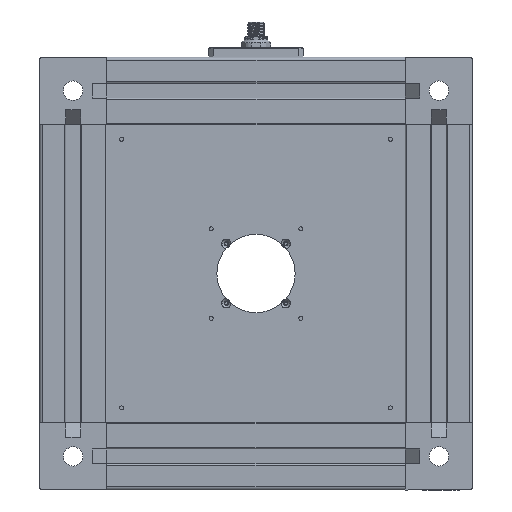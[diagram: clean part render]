
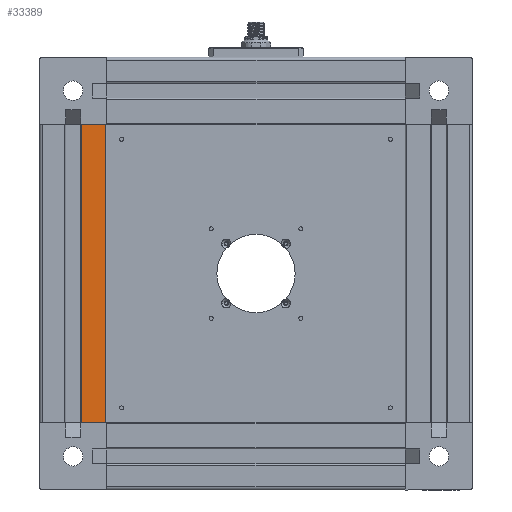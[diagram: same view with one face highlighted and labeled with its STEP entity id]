
A CAD part, front view. The second image highlights one B-rep face of the part: STEP entity #33389.
In plain terms, the highlighted planar face has unit normal (0, -1, 0) as drawn and (1, 0, 0) by its records, which use the part's own axes.
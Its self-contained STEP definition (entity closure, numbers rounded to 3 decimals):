
#3514 = EDGE_CURVE ( 'NONE', #27094, #42668, #7702, .T. ) ;
#5460 = DIRECTION ( 'NONE',  ( 1., 0., 0. ) ) ;
#6020 = CARTESIAN_POINT ( 'NONE',  ( 22.5, 22., -100. ) ) ;
#7702 = LINE ( 'NONE', #28727, #39524 ) ;
#8491 = VERTEX_POINT ( 'NONE', #30895 ) ;
#10884 = EDGE_LOOP ( 'NONE', ( #25640, #48184, #44715, #45513 ) ) ;
#14180 = CARTESIAN_POINT ( 'NONE',  ( 22.5, 22., 100. ) ) ;
#15482 = DIRECTION ( 'NONE',  ( 0., 0., 1. ) ) ;
#20027 = VECTOR ( 'NONE', #15482, 1000. ) ;
#22079 = VECTOR ( 'NONE', #48362, 1000. ) ;
#22866 = FACE_OUTER_BOUND ( 'NONE', #10884, .T. ) ;
#25640 = ORIENTED_EDGE ( 'NONE', *, *, #36100, .F. ) ;
#27094 = VERTEX_POINT ( 'NONE', #45174 ) ;
#28363 = LINE ( 'NONE', #40963, #20027 ) ;
#28727 = CARTESIAN_POINT ( 'NONE',  ( 22.5, 22., -100. ) ) ;
#30895 = CARTESIAN_POINT ( 'NONE',  ( 22.5, 5.815, 100. ) ) ;
#32032 = EDGE_CURVE ( 'NONE', #27094, #8491, #28363, .T. ) ;
#33389 = ADVANCED_FACE ( 'NONE', ( #22866 ), #35740, .T. ) ;
#35740 = PLANE ( 'NONE',  #48751 ) ;
#36024 = LINE ( 'NONE', #14180, #22079 ) ;
#36100 = EDGE_CURVE ( 'NONE', #8491, #41896, #36024, .T. ) ;
#37722 = CARTESIAN_POINT ( 'NONE',  ( 22.5, 22., -100. ) ) ;
#38798 = VECTOR ( 'NONE', #48837, 1000. ) ;
#39524 = VECTOR ( 'NONE', #49458, 1000. ) ;
#40963 = CARTESIAN_POINT ( 'NONE',  ( 22.5, 5.815, -100. ) ) ;
#41896 = VERTEX_POINT ( 'NONE', #44474 ) ;
#42668 = VERTEX_POINT ( 'NONE', #37722 ) ;
#43247 = LINE ( 'NONE', #53081, #38798 ) ;
#43840 = EDGE_CURVE ( 'NONE', #42668, #41896, #43247, .T. ) ;
#44474 = CARTESIAN_POINT ( 'NONE',  ( 22.5, 22., 100. ) ) ;
#44715 = ORIENTED_EDGE ( 'NONE', *, *, #3514, .T. ) ;
#45174 = CARTESIAN_POINT ( 'NONE',  ( 22.5, 5.815, -100. ) ) ;
#45513 = ORIENTED_EDGE ( 'NONE', *, *, #43840, .T. ) ;
#48184 = ORIENTED_EDGE ( 'NONE', *, *, #32032, .F. ) ;
#48362 = DIRECTION ( 'NONE',  ( 0., 1., 0. ) ) ;
#48751 = AXIS2_PLACEMENT_3D ( 'NONE', #6020, #5460, #52869 ) ;
#48837 = DIRECTION ( 'NONE',  ( 0., 0., 1. ) ) ;
#49458 = DIRECTION ( 'NONE',  ( 0., 1., 0. ) ) ;
#52869 = DIRECTION ( 'NONE',  ( 0., 0., -1. ) ) ;
#53081 = CARTESIAN_POINT ( 'NONE',  ( 22.5, 22., -100. ) ) ;
